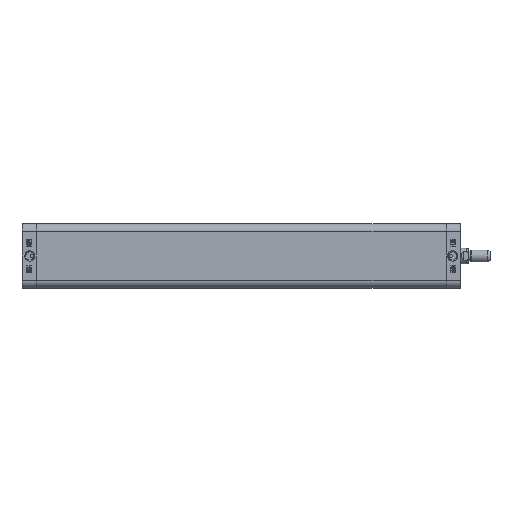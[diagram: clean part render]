
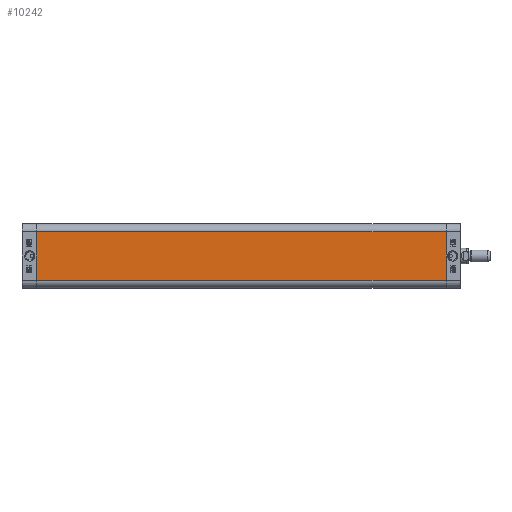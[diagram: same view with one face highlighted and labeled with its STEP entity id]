
A CAD part, left-side view. The second image highlights one B-rep face of the part: STEP entity #10242.
In plain terms, the highlighted planar face has unit normal (-1, 0, 0).
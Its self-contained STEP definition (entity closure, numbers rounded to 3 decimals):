
#5244=CARTESIAN_POINT('',(-32.75,-416.0,24.75));
#5245=VERTEX_POINT('',#5244);
#5252=CARTESIAN_POINT('',(-32.75,-416.0,-24.75));
#5253=VERTEX_POINT('',#5252);
#5254=CARTESIAN_POINT('',(-32.75,-416.0,-24.75));
#5255=DIRECTION('',(0.0,0.0,1.0));
#5256=VECTOR('',#5255,49.5);
#5257=LINE('',#5254,#5256);
#5258=EDGE_CURVE('',#5253,#5245,#5257,.T.);
#10200=CARTESIAN_POINT('',(-32.75,0.0,-24.75));
#10201=VERTEX_POINT('',#10200);
#10202=CARTESIAN_POINT('',(-32.75,0.0,-24.75));
#10203=DIRECTION('',(0.0,-1.0,0.0));
#10204=VECTOR('',#10203,416.0);
#10205=LINE('',#10202,#10204);
#10206=EDGE_CURVE('',#10201,#5253,#10205,.T.);
#10219=CARTESIAN_POINT('',(-32.75,0.0,-24.75));
#10220=DIRECTION('',(-1.0,0.0,0.0));
#10221=DIRECTION('',(0.0,0.0,1.0));
#10222=AXIS2_PLACEMENT_3D('',#10219,#10220,#10221);
#10223=PLANE('',#10222);
#10224=ORIENTED_EDGE('',*,*,#5258,.T.);
#10225=CARTESIAN_POINT('',(-32.75,0.0,24.75));
#10226=VERTEX_POINT('',#10225);
#10227=CARTESIAN_POINT('',(-32.75,0.0,24.75));
#10228=DIRECTION('',(0.0,-1.0,0.0));
#10229=VECTOR('',#10228,416.0);
#10230=LINE('',#10227,#10229);
#10231=EDGE_CURVE('',#10226,#5245,#10230,.T.);
#10232=ORIENTED_EDGE('',*,*,#10231,.F.);
#10233=CARTESIAN_POINT('',(-32.75,0.0,-24.75));
#10234=DIRECTION('',(0.0,0.0,1.0));
#10235=VECTOR('',#10234,49.5);
#10236=LINE('',#10233,#10235);
#10237=EDGE_CURVE('',#10201,#10226,#10236,.T.);
#10238=ORIENTED_EDGE('',*,*,#10237,.F.);
#10239=ORIENTED_EDGE('',*,*,#10206,.T.);
#10240=EDGE_LOOP('',(#10224,#10232,#10238,#10239));
#10241=FACE_OUTER_BOUND('',#10240,.T.);
#10242=ADVANCED_FACE('',(#10241),#10223,.T.);
